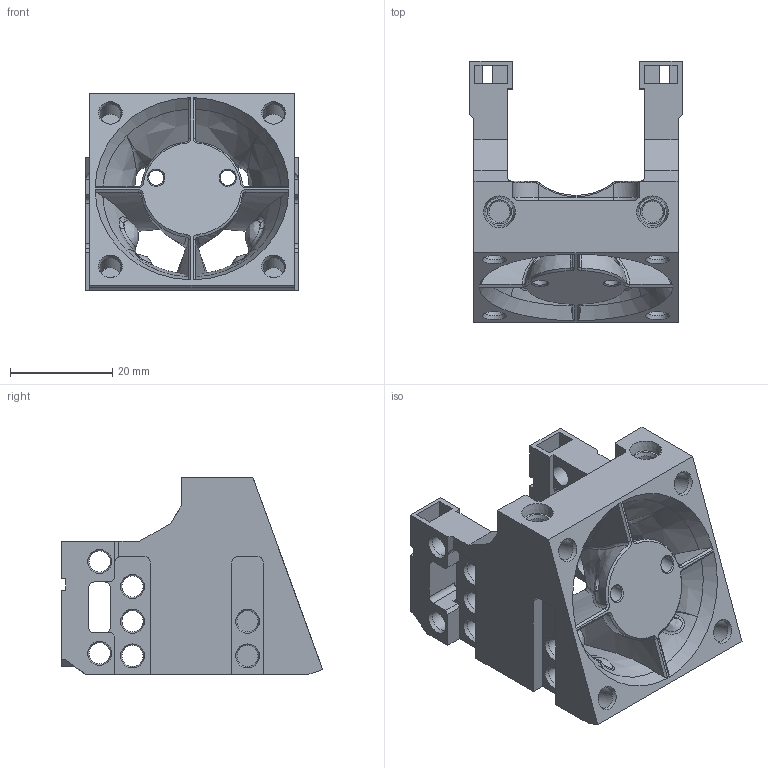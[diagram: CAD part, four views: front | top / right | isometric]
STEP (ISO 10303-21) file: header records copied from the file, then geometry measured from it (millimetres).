
FILE_DESCRIPTION(/* description */ (''),/* implementation_level */ '2;1');
FILE_NAME(/* name */ '/Users/andy/Desktop/Her Me Gen7 Magnet Base v55.step',/* time_stamp */ '2022-10-23T08:52:01-07:00',/* author */ (''),/* organization */ (''),/* preprocessor_version */ 'ST-DEVELOPER v19',/* originating_system */ 'Autodesk Translation Framework v11.7.0.108',/* authorisation */ '');
FILE_SCHEMA (('AUTOMOTIVE_DESIGN { 1 0 10303 214 3 1 1 }'));
Length unit declared in the file: millimetre
Products named in the file (2): GEN_7_1.5; Shroud_ME_1.5
Assembly tree (1 placements, depth 2):
  GEN_7_1.5
    Shroud_ME_1.5
Bounding box: 41.63 x 51.21 x 38.53 mm (x, y, z)
Volume: 24051.5 mm3; surface area: 15155.7 mm2
Topology: 1 solids, 7 shells, 402 faces, 1087 edges, 695 vertices
Faces by surface type: bspline 160, plane 141, cylinder 58, cone 38, torus 4, sphere 1
Full cylindrical faces by diameter (mm): 3 x2, 4.15 x22
Entity records: 18377 total; most frequent: CARTESIAN_POINT 9275, ORIENTED_EDGE 2166, DIRECTION 1375, EDGE_CURVE 1083, VERTEX_POINT 695, LINE 545, VECTOR 545, EDGE_LOOP 446
